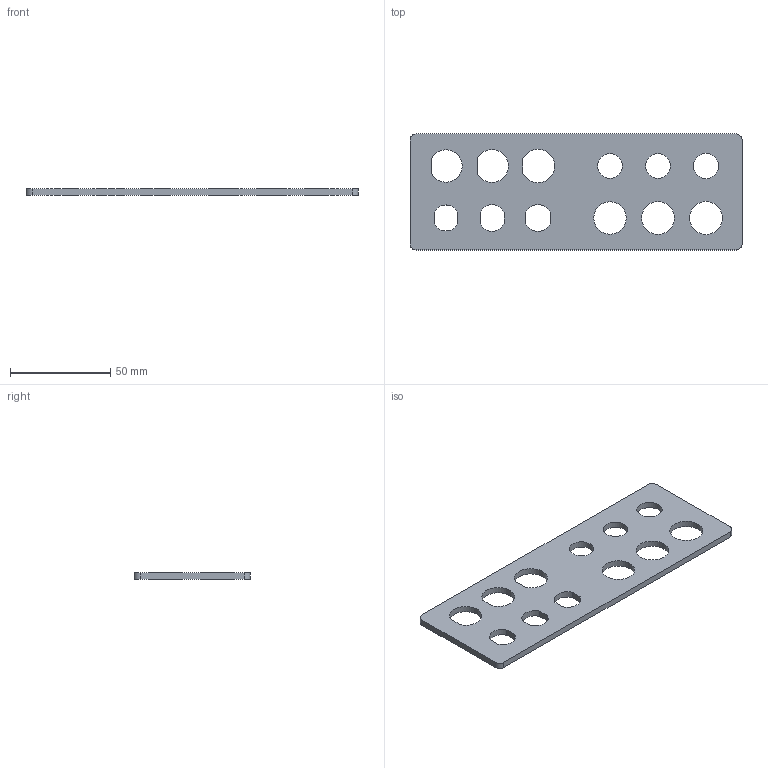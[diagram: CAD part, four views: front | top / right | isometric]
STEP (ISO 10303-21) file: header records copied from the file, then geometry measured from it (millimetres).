
FILE_DESCRIPTION(('FreeCAD Model'),'2;1');
FILE_NAME('Open CASCADE Shape Model','2026-09-10T22:55:32',( '' ),( '' ),'Open CASCADE STEP processor 7.8','FreeCAD','Unknown');
FILE_SCHEMA(('AUTOMOTIVE_DESIGN { 1 0 10303 214 1 1 1 1 }'));
Length unit declared in the file: millimetre
Products named in the file (1): Open CASCADE STEP translator 7.8 13
Bounding box: 166 x 58 x 3.2 mm (x, y, z)
Volume: 24334.4 mm3; surface area: 18381.8 mm2
Topology: 1 solids, 1 shells, 34 faces, 96 edges, 64 vertices
Faces by surface type: cylinder 19, plane 15
Full cylindrical faces by diameter (mm): 12.2 x1, 12.4 x1, 12.6 x1, 16.2 x1, 16.4 x1, 16.6 x1
Entity records: 1176 total; most frequent: DIRECTION 204, CARTESIAN_POINT 195, ORIENTED_EDGE 192, EDGE_CURVE 96, AXIS2_PLACEMENT_3D 73, VERTEX_POINT 64, FACE_BOUND 58, EDGE_LOOP 58
